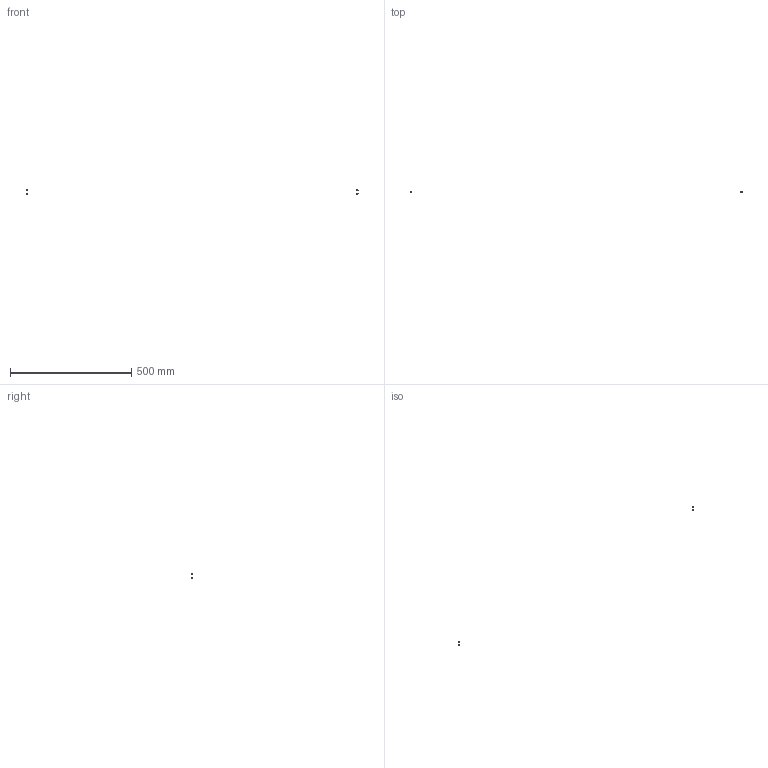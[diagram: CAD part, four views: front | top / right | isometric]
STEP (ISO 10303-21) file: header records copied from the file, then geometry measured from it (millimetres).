
FILE_DESCRIPTION(/* description */ (''),/* implementation_level */ '2;1');
FILE_NAME(/* name */ '8.x-drive#8.9#GTS3',/* time_stamp */ '2014-12-01T20:18:38+01:00',/* author */ (''),/* organization */ (''),/* preprocessor_version */ 'ST-DEVELOPER v14',/* originating_system */ '',/* authorisation */ '');
FILE_SCHEMA (('AUTOMOTIVE_DESIGN'));
Length unit declared in the file: millimetre
Products named in the file (2): Document; washer Schnorr-like, lock, M3
Assembly tree (6 placements, depth 2):
  Document
    washer Schnorr-like, lock, M3  x6
Bounding box: 1369.5 x 1.8 x 19.5 mm (x, y, z)
Surface area: 528.2 mm2 (no closed solid volume)
Topology: 0 solids, 96 shells, 96 faces, 384 edges, 384 vertices
Faces by surface type: bspline 96
Entity records: 5031 total; most frequent: CARTESIAN_POINT 2473, B_SPLINE_CURVE_WITH_KNOTS 336, ORIENTED_EDGE 224, PCURVE 224, DEFINITIONAL_REPRESENTATION 224, SURFACE_CURVE 224, EDGE_CURVE 224, VERTEX_POINT 224
